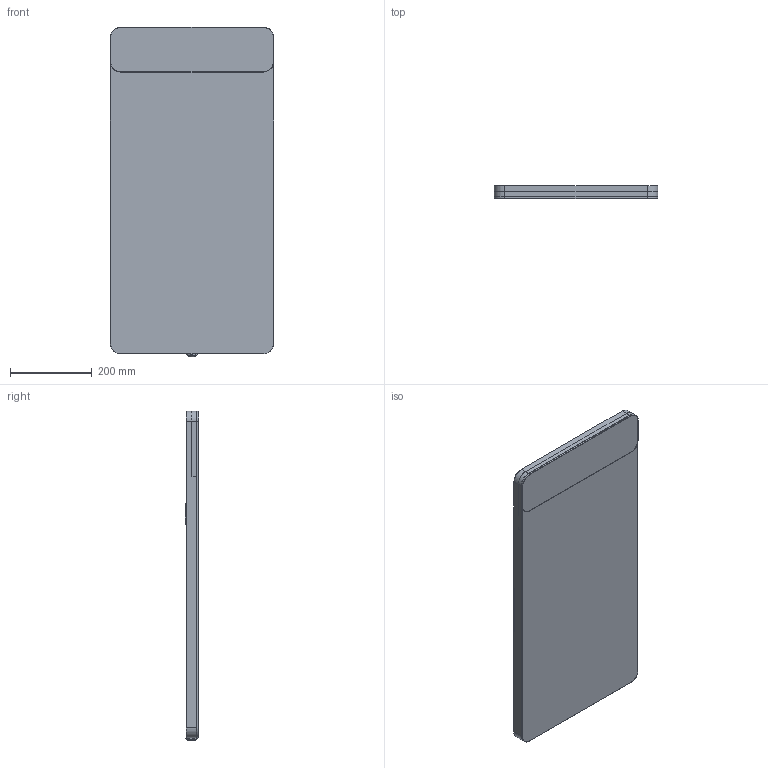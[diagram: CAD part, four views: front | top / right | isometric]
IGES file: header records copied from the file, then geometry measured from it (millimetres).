
Global section: file name: 819240000; native system: Autodesk Inventor 2018; preprocessor: unknown; date: 20200306.075837; units: millimetre
Bounding box: 400 x 32.02 x 807.5 mm (x, y, z)
Volume: 1899574.2 mm3; surface area: 980273.8 mm2
Topology: 11 solids, 11 shells, 310 faces, 812 edges, 523 vertices
Faces by surface type: bspline 310
